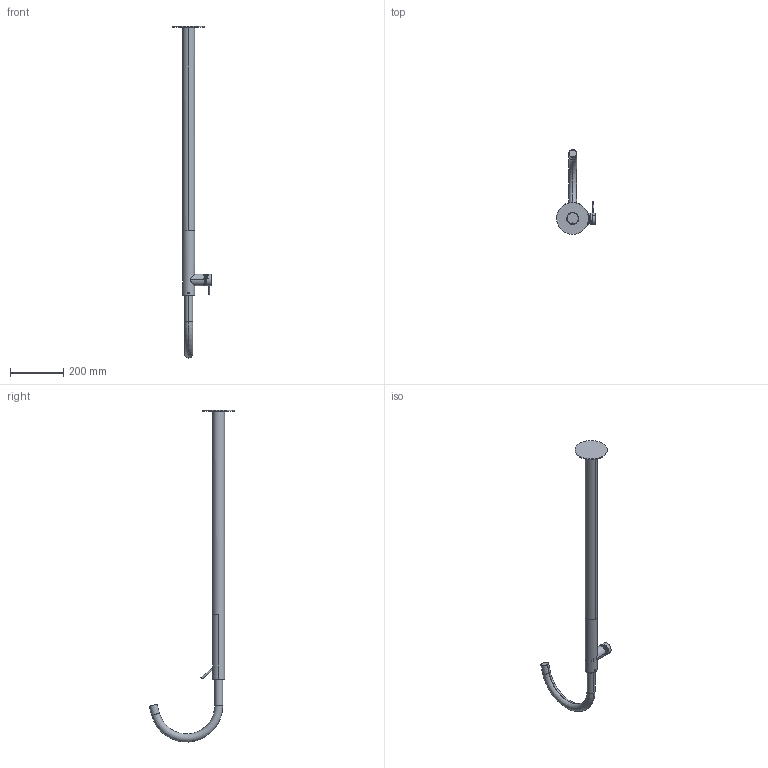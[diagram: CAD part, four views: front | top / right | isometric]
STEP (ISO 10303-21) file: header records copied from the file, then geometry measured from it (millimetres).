
FILE_DESCRIPTION((''),'2;1');
FILE_NAME('6959521_SW0001','2025-11-19T11:23:24',('carloff'),(''),'CREO PARAMETRIC BY PTC INC, 2022014','CREO PARAMETRIC BY PTC INC, 2022014','');
FILE_SCHEMA(('CONFIG_CONTROL_DESIGN'));
Length unit declared in the file: millimetre
Products named in the file (1): 6959521_SW0001
Bounding box: 145.1 x 319.46 x 1242.36 mm (x, y, z)
Volume: 479660.6 mm3; surface area: 401981.6 mm2
Topology: 2 solids, 2 shells, 185 faces, 486 edges, 307 vertices
Faces by surface type: cylinder 75, plane 48, cone 25, bspline 19, torus 16, sphere 2
Entity records: 9326 total; most frequent: CARTESIAN_POINT 4854, ORIENTED_EDGE 964, DIRECTION 892, EDGE_CURVE 482, AXIS2_PLACEMENT_3D 369, VERTEX_POINT 307, EDGE_LOOP 203, CIRCLE 203
